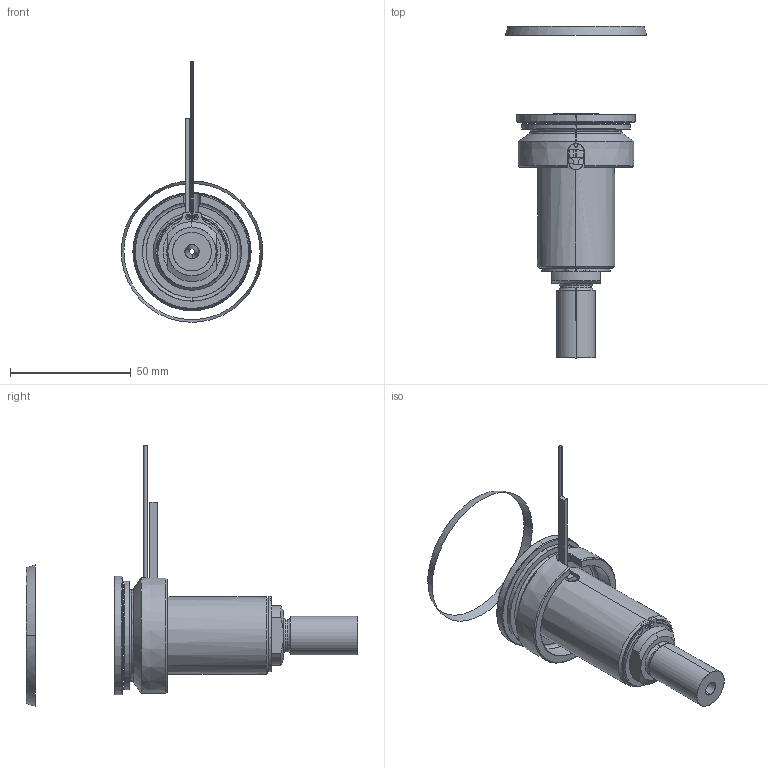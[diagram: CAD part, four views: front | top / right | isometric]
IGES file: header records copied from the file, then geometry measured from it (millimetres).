
Start section: SolidWorks IGES file using analytic representation for surfaces
Global section: file name: C:\Documents and Settings\ws-20\Desktop\TEMPORANEA\UGBE5001-S-A-P-3 [Ød-2.5 P-25 ØC-13].IGS; native system: SolidWorks 2012; preprocessor: SolidWorks 2012; author: ws-20; date: 120306.161539; units: millimetre
Bounding box: 58.57 x 137.44 x 107.94 mm (x, y, z)
Surface area: 32886.9 mm2 (no closed solid volume)
Topology: 0 solids, 0 shells, 109 faces, 2152 edges, 2152 vertices
Faces by surface type: revolution 67, bspline 42
